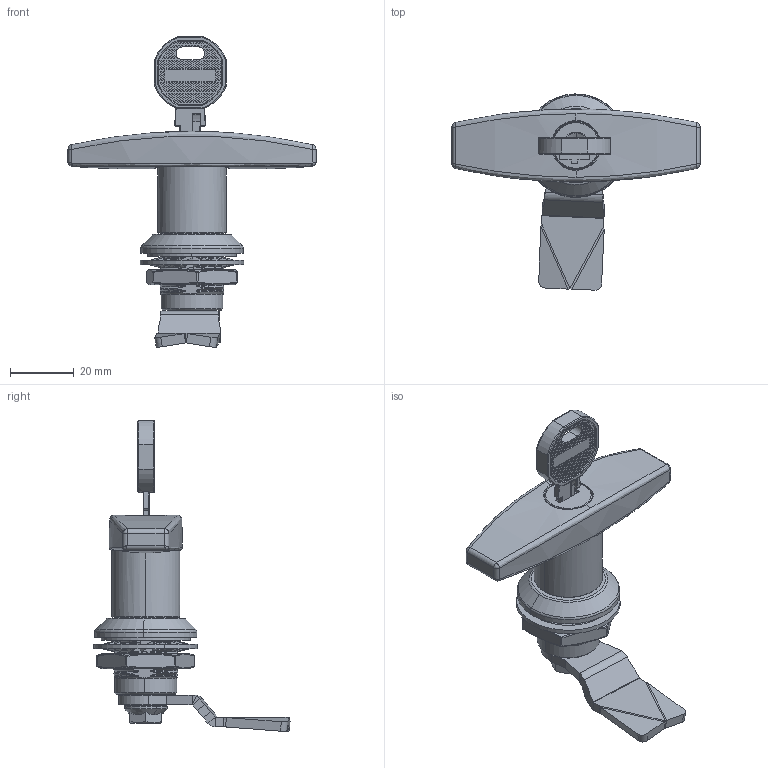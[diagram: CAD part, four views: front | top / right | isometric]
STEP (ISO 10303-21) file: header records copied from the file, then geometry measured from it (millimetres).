
FILE_DESCRIPTION (( 'STEP AP214' ), '1' );
FILE_NAME ('CUYUE B-1313-1.STEP', '2026-06-18T07:57:39', ( '' ), ( '' ), 'SwSTEP 2.0', 'SolidWorks 2020', '' );
FILE_SCHEMA (( 'AUTOMOTIVE_DESIGN' ));
Length unit declared in the file: millimetre
Products named in the file (25): B-1313-1蚾饜极_sldasm.sldasm-Part-19; B-1313-1蚾饜极_sldasm.sldasm-Part-22; B-1313-1蚾饜极_sldasm.sldasm-Part-1; CUYUE B-1313-1; B-1313-1蚾饜极_sldasm.sldasm-Part-3; B-1313-1蚾饜极_sldasm.sldasm-Part-21; B-1313-1蚾饜极_sldasm.sldasm-Part-16; B-1313-1蚾饜极_sldasm.sldasm-Part-23; B-1313-1蚾饜极_sldasm.sldasm-Part-11; B-1313-1蚾饜极_sldasm.sldasm-Part-14; B-1313-1蚾饜极_sldasm.sldasm-Part-4; B-1313-1蚾饜极_sldasm.sldasm-Part-13; B-1313-1蚾饜极_sldasm.sldasm-Part-18; B-1313-1蚾饜极_sldasm.sldasm-Part-20; B-1313-1蚾饜极_sldasm.sldasm-Part-2; B-1313-1蚾饜极_sldasm.sldasm-Part-6; B-1313-1蚾饜极_sldasm.sldasm-Part-9; B-1313-1蚾饜极_sldasm.sldasm-Part-5; B-1313-1蚾饜极_sldasm.sldasm-Part-17; B-1313-1蚾饜极_sldasm.sldasm-Part-24; B-1313-1蚾饜极_sldasm.sldasm-Part-15; B-1313-1蚾饜极_sldasm.sldasm-Part-8; B-1313-1蚾饜极_sldasm.sldasm-Part-10; B-1313-1蚾饜极_sldasm.sldasm-Part-7; B-1313-1蚾饜极_sldasm.sldasm-Part-12
Assembly tree (25 placements, depth 2):
  CUYUE B-1313-1
    B-1313-1蚾饜极_sldasm.sldasm-Part-1
    B-1313-1蚾饜极_sldasm.sldasm-Part-2
    B-1313-1蚾饜极_sldasm.sldasm-Part-3
    B-1313-1蚾饜极_sldasm.sldasm-Part-4
    B-1313-1蚾饜极_sldasm.sldasm-Part-5  x2
    B-1313-1蚾饜极_sldasm.sldasm-Part-6
    B-1313-1蚾饜极_sldasm.sldasm-Part-7
    B-1313-1蚾饜极_sldasm.sldasm-Part-8
    B-1313-1蚾饜极_sldasm.sldasm-Part-9
    B-1313-1蚾饜极_sldasm.sldasm-Part-10
    B-1313-1蚾饜极_sldasm.sldasm-Part-11
    B-1313-1蚾饜极_sldasm.sldasm-Part-12
    B-1313-1蚾饜极_sldasm.sldasm-Part-13
    B-1313-1蚾饜极_sldasm.sldasm-Part-14
    B-1313-1蚾饜极_sldasm.sldasm-Part-15
    B-1313-1蚾饜极_sldasm.sldasm-Part-16
    B-1313-1蚾饜极_sldasm.sldasm-Part-17
    B-1313-1蚾饜极_sldasm.sldasm-Part-18
    B-1313-1蚾饜极_sldasm.sldasm-Part-19
    B-1313-1蚾饜极_sldasm.sldasm-Part-20
    B-1313-1蚾饜极_sldasm.sldasm-Part-21
    B-1313-1蚾饜极_sldasm.sldasm-Part-22
    B-1313-1蚾饜极_sldasm.sldasm-Part-23
    B-1313-1蚾饜极_sldasm.sldasm-Part-24
Bounding box: 78 x 61.65 x 97.63 mm (x, y, z)
Volume: 34496.4 mm3; surface area: 33674.5 mm2
Topology: 25 solids, 25 shells, 4888 faces, 12433 edges, 8116 vertices
Faces by surface type: plane 3466, cylinder 702, bspline 519, torus 114, cone 65, sphere 22
Entity records: 210425 total; most frequent: CARTESIAN_POINT 99572, ORIENTED_EDGE 23766, DIRECTION 19804, EDGE_CURVE 11883, LINE 8856, VECTOR 8856, VERTEX_POINT 7764, AXIS2_PLACEMENT_3D 5474
